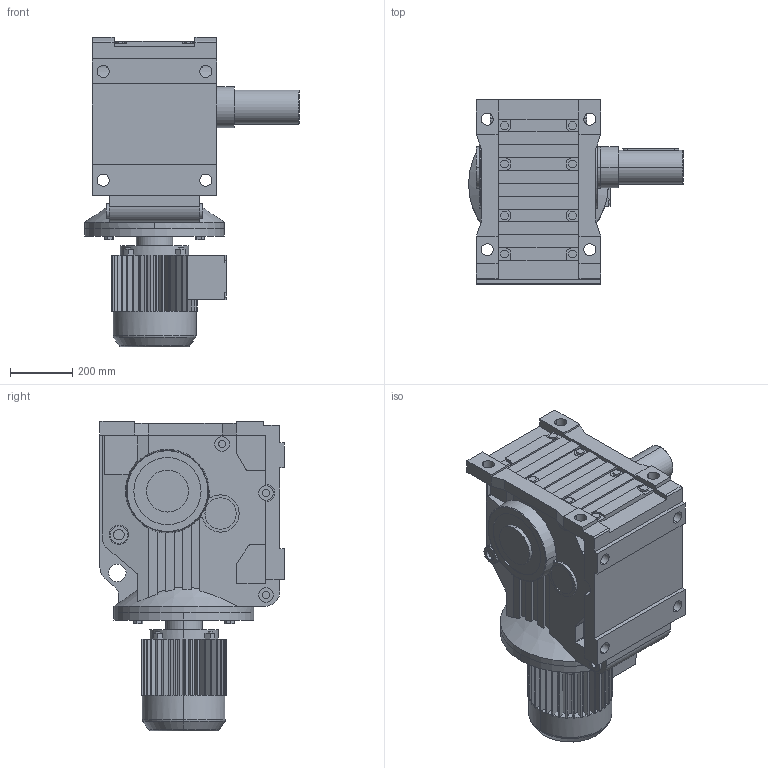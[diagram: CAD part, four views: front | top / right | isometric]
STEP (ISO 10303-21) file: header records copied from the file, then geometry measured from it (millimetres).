
FILE_DESCRIPTION(('Open CASCADE Model'),'2;1');
FILE_NAME('Open CASCADE Shape Model','2021-05-25T10:24:33',('Author'),( 'Open CASCADE'),'Open CASCADE STEP processor 6.3','Open CASCADE 6.3' ,'Unknown');
FILE_SCHEMA(('AUTOMOTIVE_DESIGN_CC2 { 1 2 10303 214 -1 1 5 4 }'));
Length unit declared in the file: millimetre
Products named in the file (4): 1_K127DV132M-A; K37‵157_127.step; 萇儂_450-DV132M-381-493-275-230.step; す瑩妗陑粣K_127.step
Assembly tree (3 placements, depth 2):
  1_K127DV132M-A
    K37‵157_127.step
    萇儂_450-DV132M-381-493-275-230.step
    す瑩妗陑粣K_127.step
Bounding box: 691 x 592 x 996 mm (x, y, z)
Volume: 127069806 mm3; surface area: 3424658.9 mm2
Topology: 3 solids, 3 shells, 834 faces, 2199 edges, 1428 vertices
Faces by surface type: plane 582, cylinder 230, cone 14, torus 8
Entity records: 57486 total; most frequent: CARTESIAN_POINT 15685, DIRECTION 7207, ORIENTED_EDGE 4394, PCURVE 4394, DEFINITIONAL_REPRESENTATION 4394, LINE 3929, VECTOR 3929, EDGE_CURVE 2197
